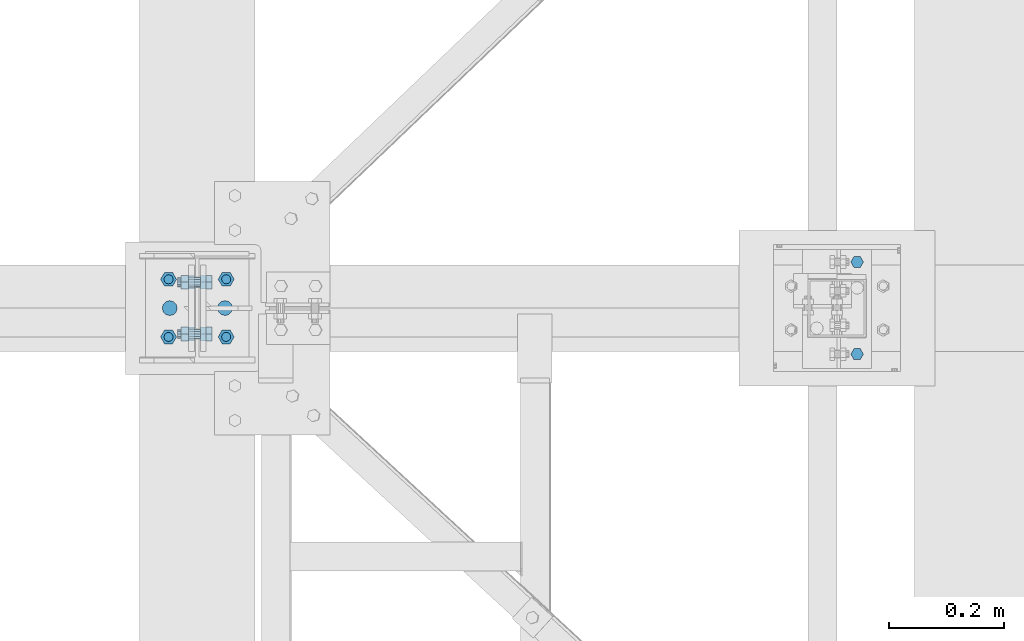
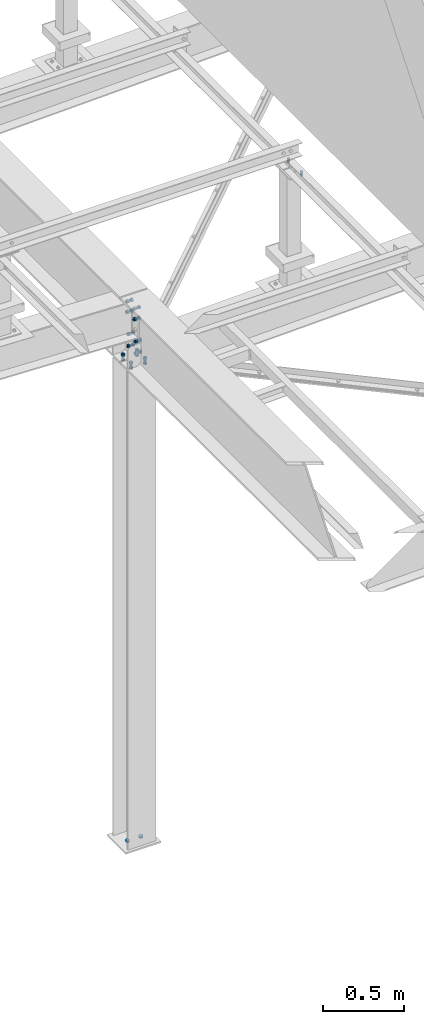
# One storey, part 190 of 3134: 8 mechanical fasteners, 4 elements without a shape of their own.
"""IFC2X3 building model written with IfcOpenShell, lengths in millimetres."""

from ifc_helpers import new_model, si_unit, frame, origin_with_axes, place, context, subcontext, project, spatial, faceted_brep, source, transform, mapped, material, type_object, element, aggregate, save


model = new_model("IFC2X3")

# Units and contexts
model_context = context("Model", 3, precision=1e-05, world=origin_with_axes())
body_context = subcontext(model_context, "Body", "Model", "MODEL_VIEW")
ifc_project = project(units=[si_unit("LENGTHUNIT", "METRE", prefix="MILLI"), si_unit("AREAUNIT", "SQUARE_METRE"), si_unit("VOLUMEUNIT", "CUBIC_METRE"), si_unit("MASSUNIT", "GRAM", prefix="KILO"), si_unit("TIMEUNIT", "SECOND"), si_unit("PLANEANGLEUNIT", "RADIAN"), si_unit("SOLIDANGLEUNIT", "STERADIAN"), si_unit("THERMODYNAMICTEMPERATUREUNIT", "DEGREE_CELSIUS"), si_unit("LUMINOUSINTENSITYUNIT", "LUMEN")], contexts=[model_context])

# Site, building, storey
site_placement = place(None, origin_with_axes())
site = spatial("IfcSite", under=ifc_project, at=site_placement, CompositionType="ELEMENT")
building_placement = place(site_placement, origin_with_axes())
building = spatial("IfcBuilding", under=site, at=building_placement, Name="Undefined", CompositionType="ELEMENT")
storey_placement = place(building_placement, origin_with_axes())
storey = spatial("IfcBuildingStorey", under=building, at=storey_placement, Name="Undefined", CompositionType="ELEMENT", Elevation=0.0)

# Assembly, mechanical fastener
assembly_1_placement = place(storey_placement, origin_with_axes())
assembly_1 = element("IfcElementAssembly", 1, at=assembly_1_placement, inside=storey, Name="HEA200", AssemblyPlace="NOTDEFINED", PredefinedType="RIGID_FRAME")
ifc_material = material(Name="8.8")
mechanical_fastener_type = type_object("IfcMechanicalFastenerType", Name="Bolt assembly")
shared_shape_1 = source(origin_with_axes(), body_context, "Body", "Brep", [
    faceted_brep([(13.0, 0.0, 0.0), (11.2583302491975, 0.0, 6.50000000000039), (6.49999999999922, 0.0, 11.2583302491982), (-1.34723677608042e-12, 0.0, 13.0), (-6.50000000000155, 0.0, 11.2583302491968), (-11.2583302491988, 0.0, 6.49999999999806), (-13.0, 0.0, -2.69447355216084e-12), (-11.2583302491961, 0.0, -6.50000000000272), (-6.4999999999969, 0.0, -11.2583302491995), (4.02727742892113e-12, 0.0, -13.0), (6.50000000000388, 0.0, -11.2583302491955), (11.2583302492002, 0.0, -6.49999999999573), (11.2583302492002, 12.1, -6.49999999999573), (6.50000000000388, 12.1, -11.2583302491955), (4.02727742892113e-12, 12.1, -13.0), (-6.4999999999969, 12.1, -11.2583302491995), (-11.2583302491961, 12.1, -6.50000000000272), (-13.0, 12.1, -2.69447355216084e-12), (-11.2583302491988, 12.1, 6.49999999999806), (-6.50000000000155, 12.1, 11.2583302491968), (-1.34723677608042e-12, 12.1, 13.0), (6.49999999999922, 12.1, 11.2583302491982), (11.2583302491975, 12.1, 6.50000000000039), (13.0, 12.1, 0.0)], [[[0, 1, 2, 3, 4, 5, 6, 7, 8, 9, 10, 11]], [[12, 13, 14, 15, 16, 17, 18, 19, 20, 21, 22, 23]], [[0, 23, 22, 1]], [[1, 22, 21, 2]], [[2, 21, 20, 3]], [[3, 20, 19, 4]], [[4, 19, 18, 5]], [[5, 18, 17, 6]], [[6, 17, 16, 7]], [[7, 16, 15, 8]], [[8, 15, 14, 9]], [[9, 14, 13, 10]], [[10, 13, 12, 11]], [[11, 12, 23, 0]]]),
])
mechanical_fastener_1_placement = place(assembly_1_placement, frame((9295.0, 40250.0, -400.0), z_axis=(1.0, 0.0, 0.0), x_axis=(0.0, 1.0, 0.0)))
mechanical_fastener_1 = element("IfcMechanicalFastener", 2, at=mechanical_fastener_1_placement, type_object=mechanical_fastener_type, material=ifc_material, Name="Bolt assembly", NominalDiameter=24.0, NominalLength=12.0, context=body_context, shape_type="MappedRepresentation", body=[
    mapped(shared_shape_1, transform((0.0, 0.0, -48.0))),
    mapped(shared_shape_1, transform((0.0, 0.0, 48.0))),
])
aggregate(assembly_1, [mechanical_fastener_1])

assembly_2_placement = place(storey_placement, origin_with_axes())
assembly_2 = element("IfcElementAssembly", 3, at=assembly_2_placement, inside=storey, AssemblyPlace="NOTDEFINED", PredefinedType="RIGID_FRAME")
shared_shape_2 = source(origin_with_axes(), body_context, "Body", "Brep", [
    faceted_brep([(10.9696551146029, -14.0, 0.0), (5.48482755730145, -14.0, 9.5), (-5.48482755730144, -14.0, 9.5), (-10.9696551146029, -14.0, 1.34339530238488e-15), (-5.48482755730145, -14.0, -9.5), (5.48482755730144, -14.0, -9.50000000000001), (5.48482755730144, -6.0, -9.50000000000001), (-5.48482755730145, -6.0, -9.5), (-10.9696551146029, -6.0, 1.34339530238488e-15), (-5.48482755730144, -6.0, 9.5), (5.48482755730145, -6.0, 9.5), (10.9696551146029, -6.0, 0.0), (6.0, -6.0, 0.0), (5.19615242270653, -6.0, 3.00000000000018), (2.99999999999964, -6.0, 5.19615242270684), (-6.21801588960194e-13, -6.0, 6.0), (-3.00000000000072, -6.0, 5.19615242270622), (-5.19615242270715, -6.0, 2.9999999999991), (-6.0, -6.0, -1.24360317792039e-12), (-5.19615242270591, -6.0, -3.00000000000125), (-2.99999999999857, -6.0, -5.19615242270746), (1.85874342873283e-12, -6.0, -6.0), (3.00000000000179, -6.0, -5.1961524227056), (5.19615242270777, -6.0, -2.99999999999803), (5.19615242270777, 24.0, -2.99999999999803), (3.00000000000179, 24.0, -5.1961524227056), (1.85874342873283e-12, 24.0, -6.0), (-2.99999999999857, 24.0, -5.19615242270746), (-5.19615242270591, 24.0, -3.00000000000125), (-6.0, 24.0, -1.24360317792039e-12), (-5.19615242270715, 24.0, 2.9999999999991), (-3.00000000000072, 24.0, 5.19615242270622), (-6.21801588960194e-13, 24.0, 6.0), (2.99999999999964, 24.0, 5.19615242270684), (5.19615242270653, 24.0, 3.00000000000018), (6.0, 24.0, 0.0), (10.9696551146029, 6.00000000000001, 0.0), (5.48482755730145, 6.00000000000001, 9.5), (-5.48482755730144, 6.00000000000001, 9.5), (-10.9696551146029, 6.00000000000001, 1.34339530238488e-15), (-5.48482755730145, 6.00000000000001, -9.5), (5.48482755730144, 6.00000000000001, -9.50000000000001), (5.48482755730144, 16.0, -9.50000000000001), (-5.48482755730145, 16.0, -9.5), (-10.9696551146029, 16.0, 1.34339530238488e-15), (-5.48482755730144, 16.0, 9.5), (5.48482755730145, 16.0, 9.5), (10.9696551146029, 16.0, 0.0)], [[[0, 1, 2, 3, 4, 5]], [[6, 7, 8, 9, 10, 11]], [[0, 11, 10, 1]], [[1, 10, 9, 2]], [[2, 9, 8, 3]], [[3, 8, 7, 4]], [[4, 7, 6, 5]], [[5, 6, 11, 0]], [[12, 13, 14, 15, 16, 17, 18, 19, 20, 21, 22, 23]], [[24, 25, 26, 27, 28, 29, 30, 31, 32, 33, 34, 35]], [[12, 35, 34, 13]], [[13, 34, 33, 14]], [[14, 33, 32, 15]], [[15, 32, 31, 16]], [[16, 31, 30, 17]], [[17, 30, 29, 18]], [[18, 29, 28, 19]], [[19, 28, 27, 20]], [[20, 27, 26, 21]], [[21, 26, 25, 22]], [[22, 25, 24, 23]], [[23, 24, 35, 12]], [[36, 37, 38, 39, 40, 41]], [[42, 43, 44, 45, 46, 47]], [[36, 47, 46, 37]], [[37, 46, 45, 38]], [[38, 45, 44, 39]], [[39, 44, 43, 40]], [[40, 43, 42, 41]], [[41, 42, 47, 36]]]),
    faceted_brep([(7.0, -0.1, 0.0), (6.06217782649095, -0.1, 3.50000000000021), (3.49999999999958, -0.1, 6.06217782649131), (-7.25435187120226e-13, -0.1, 7.0), (-3.50000000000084, -0.1, 6.06217782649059), (-6.06217782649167, -0.1, 3.49999999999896), (-7.0, -0.1, -1.45087037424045e-12), (-6.06217782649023, -0.1, -3.50000000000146), (-3.49999999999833, -0.1, -6.06217782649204), (2.1685340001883e-12, -0.1, -7.0), (3.50000000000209, -0.1, -6.06217782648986), (6.0621778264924, -0.1, -3.4999999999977), (6.0621778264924, 6.00000000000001, -3.4999999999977), (3.50000000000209, 6.00000000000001, -6.06217782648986), (2.1685340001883e-12, 6.00000000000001, -7.0), (-3.49999999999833, 6.00000000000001, -6.06217782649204), (-6.06217782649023, 6.00000000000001, -3.50000000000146), (-7.0, 6.00000000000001, -1.45087037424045e-12), (-6.06217782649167, 6.00000000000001, 3.49999999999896), (-3.50000000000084, 6.00000000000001, 6.06217782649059), (-7.25435187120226e-13, 6.00000000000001, 7.0), (3.49999999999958, 6.00000000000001, 6.06217782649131), (6.06217782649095, 6.00000000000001, 3.50000000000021), (7.0, 6.00000000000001, 0.0), (7.0, -5.9, 0.0), (6.06217782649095, -5.9, 3.50000000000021), (3.49999999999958, -5.9, 6.06217782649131), (-7.25435187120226e-13, -5.9, 7.0), (-3.50000000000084, -5.9, 6.06217782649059), (-6.06217782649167, -5.9, 3.49999999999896), (-7.0, -5.9, -1.45087037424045e-12), (-6.06217782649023, -5.9, -3.50000000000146), (-3.49999999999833, -5.9, -6.06217782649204), (2.1685340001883e-12, -5.9, -7.0), (3.50000000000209, -5.9, -6.06217782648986), (6.0621778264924, -5.9, -3.4999999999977), (6.0621778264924, 0.0999999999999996, -3.4999999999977), (3.50000000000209, 0.0999999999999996, -6.06217782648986), (2.1685340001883e-12, 0.0999999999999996, -7.0), (-3.49999999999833, 0.0999999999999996, -6.06217782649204), (-6.06217782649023, 0.0999999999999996, -3.50000000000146), (-7.0, 0.0999999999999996, -1.45087037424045e-12), (-6.06217782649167, 0.0999999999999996, 3.49999999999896), (-3.50000000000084, 0.0999999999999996, 6.06217782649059), (-7.25435187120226e-13, 0.0999999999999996, 7.0), (3.49999999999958, 0.0999999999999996, 6.06217782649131), (6.06217782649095, 0.0999999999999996, 3.50000000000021), (7.0, 0.0999999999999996, 0.0)], [[[0, 1, 2, 3, 4, 5, 6, 7, 8, 9, 10, 11]], [[12, 13, 14, 15, 16, 17, 18, 19, 20, 21, 22, 23]], [[0, 23, 22, 1]], [[1, 22, 21, 2]], [[2, 21, 20, 3]], [[3, 20, 19, 4]], [[4, 19, 18, 5]], [[5, 18, 17, 6]], [[6, 17, 16, 7]], [[7, 16, 15, 8]], [[8, 15, 14, 9]], [[9, 14, 13, 10]], [[10, 13, 12, 11]], [[11, 12, 23, 0]], [[24, 25, 26, 27, 28, 29, 30, 31, 32, 33, 34, 35]], [[36, 37, 38, 39, 40, 41, 42, 43, 44, 45, 46, 47]], [[24, 47, 46, 25]], [[25, 46, 45, 26]], [[26, 45, 44, 27]], [[27, 44, 43, 28]], [[28, 43, 42, 29]], [[29, 42, 41, 30]], [[30, 41, 40, 31]], [[31, 40, 39, 32]], [[32, 39, 38, 33]], [[33, 38, 37, 34]], [[34, 37, 36, 35]], [[35, 36, 47, 24]]]),
])
mechanical_fastener_2_placement = place(assembly_2_placement, frame((10440.0, 40250.0, 4265.0), z_axis=(0.0, -1.0, 0.0), x_axis=(-1.0, 0.0, 0.0)))
mechanical_fastener_2 = element("IfcMechanicalFastener", 4, at=mechanical_fastener_2_placement, type_object=mechanical_fastener_type, material=ifc_material, Name="Bolt assembly", NominalDiameter=12.0, NominalLength=30.0, context=body_context, shape_type="MappedRepresentation", body=[
    mapped(shared_shape_2, transform((0.0, -5.32963895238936e-10, -79.9999999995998))),
    mapped(shared_shape_2, transform((0.0, 5.3114490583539e-10, 79.9999999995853))),
])
aggregate(assembly_2, [mechanical_fastener_2])

assembly_3_placement = place(storey_placement, origin_with_axes())
assembly_3 = element("IfcElementAssembly", 5, at=assembly_3_placement, inside=storey, Name="IPE500", AssemblyPlace="NOTDEFINED", PredefinedType="RIGID_FRAME")
shared_shape_3 = source(origin_with_axes(), body_context, "Body", "Brep", [
    faceted_brep([(13.856406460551, -10.0, 0.0), (6.92820323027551, -10.0, 12.0), (-6.92820323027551, -10.0, 12.0), (-13.856406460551, -10.0, 1.69692038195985e-15), (-6.92820323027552, -10.0, -12.0), (6.9282032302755, -10.0, -12.0), (6.9282032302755, 0.0, -12.0), (-6.92820323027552, 0.0, -12.0), (-13.856406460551, 0.0, 1.69692038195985e-15), (-6.92820323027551, 0.0, 12.0), (6.92820323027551, 0.0, 12.0), (13.856406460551, 0.0, 0.0), (8.0, 0.0, 0.0), (6.92820323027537, 0.0, 4.00000000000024), (3.99999999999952, 0.0, 6.92820323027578), (-8.29068785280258e-13, 0.0, 8.0), (-4.00000000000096, 0.0, 6.92820323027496), (-6.9282032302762, 0.0, 3.99999999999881), (-8.0, 0.0, -1.65813757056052e-12), (-6.92820323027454, 0.0, -4.00000000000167), (-3.99999999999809, 0.0, -6.92820323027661), (2.47832457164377e-12, 0.0, -8.0), (4.00000000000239, 0.0, -6.92820323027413), (6.92820323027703, 0.0, -3.99999999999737), (6.92820323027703, 45.0, -3.99999999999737), (4.00000000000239, 45.0, -6.92820323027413), (2.47832457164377e-12, 45.0, -8.0), (-3.99999999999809, 45.0, -6.92820323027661), (-6.92820323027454, 45.0, -4.00000000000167), (-8.0, 45.0, -1.65813757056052e-12), (-6.9282032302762, 45.0, 3.99999999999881), (-4.00000000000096, 45.0, 6.92820323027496), (-8.29068785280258e-13, 45.0, 8.0), (3.99999999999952, 45.0, 6.92820323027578), (6.92820323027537, 45.0, 4.00000000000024), (8.0, 45.0, 0.0), (13.856406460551, 27.9999995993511, 0.0), (6.92820323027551, 27.9999995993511, 12.0), (-6.92820323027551, 27.9999995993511, 12.0), (-13.856406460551, 27.9999995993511, 1.69692038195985e-15), (-6.92820323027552, 27.9999995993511, -12.0), (6.9282032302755, 27.9999995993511, -12.0), (6.9282032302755, 41.0, -12.0), (-6.92820323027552, 41.0, -12.0), (-13.856406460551, 41.0, 1.69692038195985e-15), (-6.92820323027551, 41.0, 12.0), (6.92820323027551, 41.0, 12.0), (13.856406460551, 41.0, 0.0)], [[[0, 1, 2, 3, 4, 5]], [[6, 7, 8, 9, 10, 11]], [[0, 11, 10, 1]], [[1, 10, 9, 2]], [[2, 9, 8, 3]], [[3, 8, 7, 4]], [[4, 7, 6, 5]], [[5, 6, 11, 0]], [[12, 13, 14, 15, 16, 17, 18, 19, 20, 21, 22, 23]], [[24, 25, 26, 27, 28, 29, 30, 31, 32, 33, 34, 35]], [[12, 35, 34, 13]], [[13, 34, 33, 14]], [[14, 33, 32, 15]], [[15, 32, 31, 16]], [[16, 31, 30, 17]], [[17, 30, 29, 18]], [[18, 29, 28, 19]], [[19, 28, 27, 20]], [[20, 27, 26, 21]], [[21, 26, 25, 22]], [[22, 25, 24, 23]], [[23, 24, 35, 12]], [[36, 37, 38, 39, 40, 41]], [[42, 43, 44, 45, 46, 47]], [[36, 47, 46, 37]], [[37, 46, 45, 38]], [[38, 45, 44, 39]], [[39, 44, 43, 40]], [[40, 43, 42, 41]], [[41, 42, 47, 36]]]),
    faceted_brep([(9.0, 0.100000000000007, 0.0), (7.79422863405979, 0.100000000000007, 4.50000000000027), (4.49999999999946, 0.100000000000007, 7.79422863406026), (-9.3270238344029e-13, 0.100000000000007, 9.0), (-4.50000000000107, 0.100000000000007, 7.79422863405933), (-7.79422863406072, 0.100000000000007, 4.49999999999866), (-9.0, 0.100000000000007, -1.86540476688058e-12), (-7.79422863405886, 0.100000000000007, -4.50000000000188), (-4.49999999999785, 0.100000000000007, -7.79422863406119), (2.78811514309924e-12, 0.100000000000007, -9.0), (4.50000000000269, 0.100000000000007, -7.7942286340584), (7.79422863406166, 0.100000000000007, -4.49999999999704), (7.79422863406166, 12.1, -4.49999999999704), (4.50000000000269, 12.1, -7.7942286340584), (2.78811514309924e-12, 12.1, -9.0), (-4.49999999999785, 12.1, -7.79422863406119), (-7.79422863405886, 12.1, -4.50000000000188), (-9.0, 12.1, -1.86540476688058e-12), (-7.79422863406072, 12.1, 4.49999999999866), (-4.50000000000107, 12.1, 7.79422863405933), (-9.3270238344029e-13, 12.1, 9.0), (4.49999999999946, 12.1, 7.79422863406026), (7.79422863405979, 12.1, 4.50000000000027), (9.0, 12.1, 0.0), (9.0, 11.9, 0.0), (7.79422863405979, 11.9, 4.50000000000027), (4.49999999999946, 11.9, 7.79422863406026), (-9.3270238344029e-13, 11.9, 9.0), (-4.50000000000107, 11.9, 7.79422863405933), (-7.79422863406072, 11.9, 4.49999999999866), (-9.0, 11.9, -1.86540476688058e-12), (-7.79422863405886, 11.9, -4.50000000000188), (-4.49999999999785, 11.9, -7.79422863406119), (2.78811514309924e-12, 11.9, -9.0), (4.50000000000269, 11.9, -7.7942286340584), (7.79422863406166, 11.9, -4.49999999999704), (7.79422863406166, 28.0, -4.49999999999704), (4.50000000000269, 28.0, -7.7942286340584), (2.78811514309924e-12, 28.0, -9.0), (-4.49999999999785, 28.0, -7.79422863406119), (-7.79422863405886, 28.0, -4.50000000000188), (-9.0, 28.0, -1.86540476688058e-12), (-7.79422863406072, 28.0, 4.49999999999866), (-4.50000000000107, 28.0, 7.79422863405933), (-9.3270238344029e-13, 28.0, 9.0), (4.49999999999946, 28.0, 7.79422863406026), (7.79422863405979, 28.0, 4.50000000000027), (9.0, 28.0, 0.0)], [[[0, 1, 2, 3, 4, 5, 6, 7, 8, 9, 10, 11]], [[12, 13, 14, 15, 16, 17, 18, 19, 20, 21, 22, 23]], [[0, 23, 22, 1]], [[1, 22, 21, 2]], [[2, 21, 20, 3]], [[3, 20, 19, 4]], [[4, 19, 18, 5]], [[5, 18, 17, 6]], [[6, 17, 16, 7]], [[7, 16, 15, 8]], [[8, 15, 14, 9]], [[9, 14, 13, 10]], [[10, 13, 12, 11]], [[11, 12, 23, 0]], [[24, 25, 26, 27, 28, 29, 30, 31, 32, 33, 34, 35]], [[36, 37, 38, 39, 40, 41, 42, 43, 44, 45, 46, 47]], [[24, 47, 46, 25]], [[25, 46, 45, 26]], [[26, 45, 44, 27]], [[27, 44, 43, 28]], [[28, 43, 42, 29]], [[29, 42, 41, 30]], [[30, 41, 40, 31]], [[31, 40, 39, 32]], [[32, 39, 38, 33]], [[33, 38, 37, 34]], [[34, 37, 36, 35]], [[35, 36, 47, 24]]]),
])
mechanical_fastener_3_placement = place(assembly_3_placement, frame((9345.0, 40200.0, 3202.67), z_axis=(0.0, 1.0, 0.0), x_axis=(-1.0, 0.0, 0.0)))
mechanical_fastener_3 = element("IfcMechanicalFastener", 6, at=mechanical_fastener_3_placement, type_object=mechanical_fastener_type, material=ifc_material, Name="Bolt assembly", NominalDiameter=16.0, NominalLength=45.0, context=body_context, shape_type="MappedRepresentation", body=[
    mapped(shared_shape_3, transform((0.0, 0.0, 0.0))),
    mapped(shared_shape_3, transform((100.0, 0.0, 0.0))),
])

assembly_4_placement = place(storey_placement, origin_with_axes())
assembly_4 = element("IfcElementAssembly", 7, at=assembly_4_placement, inside=storey, Name="IPE500", AssemblyPlace="NOTDEFINED", PredefinedType="RIGID_FRAME")
mechanical_fastener_4_placement = place(assembly_4_placement, frame((9345.0, 40300.0, 3202.67), z_axis=(0.0, 1.0, 0.0), x_axis=(-1.0, 0.0, 0.0)))
mechanical_fastener_4 = element("IfcMechanicalFastener", 8, at=mechanical_fastener_4_placement, type_object=mechanical_fastener_type, material=ifc_material, Name="Bolt assembly", NominalDiameter=16.0, NominalLength=45.0, context=body_context, shape_type="MappedRepresentation", body=[
    mapped(shared_shape_3, transform((0.0, 0.0, 0.0))),
    mapped(shared_shape_3, transform((100.0, 0.0, 0.0))),
])

# Mechanical fastener
shared_shape_4 = source(origin_with_axes(), body_context, "Body", "Brep", [
    faceted_brep([(13.856406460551, 0.0, 0.0), (6.92820323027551, 0.0, 12.0), (-6.92820323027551, 0.0, 12.0), (-13.856406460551, 0.0, 1.69692038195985e-15), (-6.92820323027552, 0.0, -12.0), (6.9282032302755, 0.0, -12.0), (6.9282032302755, 9.99999995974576, -12.0), (-6.92820323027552, 9.99999995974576, -12.0), (-13.856406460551, 9.99999995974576, 1.69692038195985e-15), (-6.92820323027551, 9.99999995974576, 12.0), (6.92820323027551, 9.99999995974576, 12.0), (13.856406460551, 9.99999995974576, 0.0), (8.0, 9.99999995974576, 0.0), (6.92820323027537, 9.99999995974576, 4.00000000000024), (3.99999999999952, 9.99999995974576, 6.92820323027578), (-8.29068785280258e-13, 9.99999995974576, 8.0), (-4.00000000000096, 9.99999995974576, 6.92820323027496), (-6.9282032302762, 9.99999995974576, 3.99999999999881), (-8.0, 9.99999995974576, -1.65813757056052e-12), (-6.92820323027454, 9.99999995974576, -4.00000000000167), (-3.99999999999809, 9.99999995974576, -6.92820323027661), (2.47832457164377e-12, 9.99999995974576, -8.0), (4.00000000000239, 9.99999995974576, -6.92820323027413), (6.92820323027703, 9.99999995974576, -3.99999999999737), (6.92820323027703, 49.9999999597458, -3.99999999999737), (4.00000000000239, 49.9999999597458, -6.92820323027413), (2.47832457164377e-12, 49.9999999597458, -8.0), (-3.99999999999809, 49.9999999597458, -6.92820323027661), (-6.92820323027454, 49.9999999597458, -4.00000000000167), (-8.0, 49.9999999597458, -1.65813757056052e-12), (-6.9282032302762, 49.9999999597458, 3.99999999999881), (-4.00000000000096, 49.9999999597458, 6.92820323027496), (-8.29068785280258e-13, 49.9999999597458, 8.0), (3.99999999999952, 49.9999999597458, 6.92820323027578), (6.92820323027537, 49.9999999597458, 4.00000000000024), (8.0, 49.9999999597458, 0.0), (13.856406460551, 30.1999997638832, 0.0), (6.92820323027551, 30.1999997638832, 12.0), (-6.92820323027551, 30.1999997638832, 12.0), (-13.856406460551, 30.1999997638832, 1.69692038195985e-15), (-6.92820323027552, 30.1999997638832, -12.0), (6.9282032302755, 30.1999997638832, -12.0), (6.9282032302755, 43.1999997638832, -12.0), (-6.92820323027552, 43.1999997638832, -12.0), (-13.856406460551, 43.1999997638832, 1.69692038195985e-15), (-6.92820323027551, 43.1999997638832, 12.0), (6.92820323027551, 43.1999997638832, 12.0), (13.856406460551, 43.1999997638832, 0.0)], [[[0, 1, 2, 3, 4, 5]], [[6, 7, 8, 9, 10, 11]], [[0, 11, 10, 1]], [[1, 10, 9, 2]], [[2, 9, 8, 3]], [[3, 8, 7, 4]], [[4, 7, 6, 5]], [[5, 6, 11, 0]], [[12, 13, 14, 15, 16, 17, 18, 19, 20, 21, 22, 23]], [[24, 25, 26, 27, 28, 29, 30, 31, 32, 33, 34, 35]], [[12, 35, 34, 13]], [[13, 34, 33, 14]], [[14, 33, 32, 15]], [[15, 32, 31, 16]], [[16, 31, 30, 17]], [[17, 30, 29, 18]], [[18, 29, 28, 19]], [[19, 28, 27, 20]], [[20, 27, 26, 21]], [[21, 26, 25, 22]], [[22, 25, 24, 23]], [[23, 24, 35, 12]], [[36, 37, 38, 39, 40, 41]], [[42, 43, 44, 45, 46, 47]], [[36, 47, 46, 37]], [[37, 46, 45, 38]], [[38, 45, 44, 39]], [[39, 44, 43, 40]], [[40, 43, 42, 41]], [[41, 42, 47, 36]]]),
    faceted_brep([(9.0, 20.0999997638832, 0.0), (7.79422863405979, 20.0999997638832, 4.50000000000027), (4.49999999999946, 20.0999997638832, 7.79422863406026), (-9.3270238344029e-13, 20.0999997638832, 9.0), (-4.50000000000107, 20.0999997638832, 7.79422863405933), (-7.79422863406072, 20.0999997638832, 4.49999999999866), (-9.0, 20.0999997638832, -1.86540476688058e-12), (-7.79422863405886, 20.0999997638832, -4.50000000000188), (-4.49999999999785, 20.0999997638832, -7.79422863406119), (2.78811514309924e-12, 20.0999997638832, -9.0), (4.50000000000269, 20.0999997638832, -7.7942286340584), (7.79422863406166, 20.0999997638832, -4.49999999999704), (7.79422863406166, 30.1999997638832, -4.49999999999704), (4.50000000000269, 30.1999997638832, -7.7942286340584), (2.78811514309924e-12, 30.1999997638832, -9.0), (-4.49999999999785, 30.1999997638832, -7.79422863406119), (-7.79422863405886, 30.1999997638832, -4.50000000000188), (-9.0, 30.1999997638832, -1.86540476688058e-12), (-7.79422863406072, 30.1999997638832, 4.49999999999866), (-4.50000000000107, 30.1999997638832, 7.79422863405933), (-9.3270238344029e-13, 30.1999997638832, 9.0), (4.49999999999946, 30.1999997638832, 7.79422863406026), (7.79422863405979, 30.1999997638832, 4.50000000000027), (9.0, 30.1999997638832, 0.0), (9.0, 10.1000023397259, 0.0), (7.79422863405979, 10.1000023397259, 4.50000000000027), (4.49999999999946, 10.1000023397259, 7.79422863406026), (-9.3270238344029e-13, 10.1000023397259, 9.0), (-4.50000000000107, 10.1000023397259, 7.79422863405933), (-7.79422863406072, 10.1000023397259, 4.49999999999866), (-9.0, 10.1000023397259, -1.86540476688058e-12), (-7.79422863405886, 10.1000023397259, -4.50000000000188), (-4.49999999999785, 10.1000023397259, -7.79422863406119), (2.78811514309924e-12, 10.1000023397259, -9.0), (4.50000000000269, 10.1000023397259, -7.7942286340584), (7.79422863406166, 10.1000023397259, -4.49999999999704), (7.79422863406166, 20.2999997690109, -4.49999999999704), (4.50000000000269, 20.2999997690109, -7.7942286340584), (2.78811514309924e-12, 20.2999997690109, -9.0), (-4.49999999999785, 20.2999997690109, -7.79422863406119), (-7.79422863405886, 20.2999997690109, -4.50000000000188), (-9.0, 20.2999997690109, -1.86540476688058e-12), (-7.79422863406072, 20.2999997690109, 4.49999999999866), (-4.50000000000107, 20.2999997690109, 7.79422863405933), (-9.3270238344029e-13, 20.2999997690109, 9.0), (4.49999999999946, 20.2999997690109, 7.79422863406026), (7.79422863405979, 20.2999997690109, 4.50000000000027), (9.0, 20.2999997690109, 0.0)], [[[0, 1, 2, 3, 4, 5, 6, 7, 8, 9, 10, 11]], [[12, 13, 14, 15, 16, 17, 18, 19, 20, 21, 22, 23]], [[0, 23, 22, 1]], [[1, 22, 21, 2]], [[2, 21, 20, 3]], [[3, 20, 19, 4]], [[4, 19, 18, 5]], [[5, 18, 17, 6]], [[6, 17, 16, 7]], [[7, 16, 15, 8]], [[8, 15, 14, 9]], [[9, 14, 13, 10]], [[10, 13, 12, 11]], [[11, 12, 23, 0]], [[24, 25, 26, 27, 28, 29, 30, 31, 32, 33, 34, 35]], [[36, 37, 38, 39, 40, 41, 42, 43, 44, 45, 46, 47]], [[24, 47, 46, 25]], [[25, 46, 45, 26]], [[26, 45, 44, 27]], [[27, 44, 43, 28]], [[28, 43, 42, 29]], [[29, 42, 41, 30]], [[30, 41, 40, 31]], [[31, 40, 39, 32]], [[32, 39, 38, 33]], [[33, 38, 37, 34]], [[34, 37, 36, 35]], [[35, 36, 47, 24]]]),
])
mechanical_fastener_5_placement = place(assembly_3_placement, frame((9310.09999986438, 40205.0, 3631.67000001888), z_axis=(0.0, 1.0, 0.0), x_axis=(0.0, 0.0, -1.0)))
mechanical_fastener_5 = element("IfcMechanicalFastener", 9, at=mechanical_fastener_5_placement, type_object=mechanical_fastener_type, material=ifc_material, Name="Bolt assembly", NominalDiameter=16.0, NominalLength=40.0, context=body_context, shape_type="MappedRepresentation", body=[
    mapped(shared_shape_4, transform((0.0, 0.0, 0.0))),
    mapped(shared_shape_4, transform((80.0, 0.0, 0.0))),
])

mechanical_fastener_6_placement = place(assembly_4_placement, frame((9310.09999986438, 40295.0, 3631.67000001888), z_axis=(0.0, 1.0, 0.0), x_axis=(0.0, 0.0, -1.0)))
mechanical_fastener_6 = element("IfcMechanicalFastener", 10, at=mechanical_fastener_6_placement, type_object=mechanical_fastener_type, material=ifc_material, Name="Bolt assembly", NominalDiameter=16.0, NominalLength=40.0, context=body_context, shape_type="MappedRepresentation", body=[
    mapped(shared_shape_4, transform((0.0, 0.0, 0.0))),
    mapped(shared_shape_4, transform((80.0, 0.0, 0.0))),
])

shared_shape_5 = source(origin_with_axes(), body_context, "Body", "Brep", [
    faceted_brep([(13.856406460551, -10.0, 0.0), (6.92820323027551, -10.0, 12.0), (-6.92820323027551, -10.0, 12.0), (-13.856406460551, -10.0, 1.69692038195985e-15), (-6.92820323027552, -10.0, -12.0), (6.9282032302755, -10.0, -12.0), (6.9282032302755, 0.0, -12.0), (-6.92820323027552, 0.0, -12.0), (-13.856406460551, 0.0, 1.69692038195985e-15), (-6.92820323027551, 0.0, 12.0), (6.92820323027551, 0.0, 12.0), (13.856406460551, 0.0, 0.0), (8.0, 0.0, 0.0), (6.92820323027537, 0.0, 4.00000000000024), (3.99999999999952, 0.0, 6.92820323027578), (-8.29068785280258e-13, 0.0, 8.0), (-4.00000000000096, 0.0, 6.92820323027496), (-6.9282032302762, 0.0, 3.99999999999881), (-8.0, 0.0, -1.65813757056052e-12), (-6.92820323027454, 0.0, -4.00000000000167), (-3.99999999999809, 0.0, -6.92820323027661), (2.47832457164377e-12, 0.0, -8.0), (4.00000000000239, 0.0, -6.92820323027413), (6.92820323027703, 0.0, -3.99999999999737), (6.92820323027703, 40.0, -3.99999999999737), (4.00000000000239, 40.0, -6.92820323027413), (2.47832457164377e-12, 40.0, -8.0), (-3.99999999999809, 40.0, -6.92820323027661), (-6.92820323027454, 40.0, -4.00000000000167), (-8.0, 40.0, -1.65813757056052e-12), (-6.9282032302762, 40.0, 3.99999999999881), (-4.00000000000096, 40.0, 6.92820323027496), (-8.29068785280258e-13, 40.0, 8.0), (3.99999999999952, 40.0, 6.92820323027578), (6.92820323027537, 40.0, 4.00000000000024), (8.0, 40.0, 0.0), (13.856406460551, 20.1999997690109, 0.0), (6.92820323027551, 20.1999997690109, 12.0), (-6.92820323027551, 20.1999997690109, 12.0), (-13.856406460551, 20.1999997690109, 1.69692038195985e-15), (-6.92820323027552, 20.1999997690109, -12.0), (6.9282032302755, 20.1999997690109, -12.0), (6.9282032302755, 33.1999997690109, -12.0), (-6.92820323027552, 33.1999997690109, -12.0), (-13.856406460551, 33.1999997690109, 1.69692038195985e-15), (-6.92820323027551, 33.1999997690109, 12.0), (6.92820323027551, 33.1999997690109, 12.0), (13.856406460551, 33.1999997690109, 0.0)], [[[0, 1, 2, 3, 4, 5]], [[6, 7, 8, 9, 10, 11]], [[0, 11, 10, 1]], [[1, 10, 9, 2]], [[2, 9, 8, 3]], [[3, 8, 7, 4]], [[4, 7, 6, 5]], [[5, 6, 11, 0]], [[12, 13, 14, 15, 16, 17, 18, 19, 20, 21, 22, 23]], [[24, 25, 26, 27, 28, 29, 30, 31, 32, 33, 34, 35]], [[12, 35, 34, 13]], [[13, 34, 33, 14]], [[14, 33, 32, 15]], [[15, 32, 31, 16]], [[16, 31, 30, 17]], [[17, 30, 29, 18]], [[18, 29, 28, 19]], [[19, 28, 27, 20]], [[20, 27, 26, 21]], [[21, 26, 25, 22]], [[22, 25, 24, 23]], [[23, 24, 35, 12]], [[36, 37, 38, 39, 40, 41]], [[42, 43, 44, 45, 46, 47]], [[36, 47, 46, 37]], [[37, 46, 45, 38]], [[38, 45, 44, 39]], [[39, 44, 43, 40]], [[40, 43, 42, 41]], [[41, 42, 47, 36]]]),
    faceted_brep([(9.0, 0.100000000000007, 0.0), (7.79422863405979, 0.100000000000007, 4.50000000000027), (4.49999999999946, 0.100000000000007, 7.79422863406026), (-9.3270238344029e-13, 0.100000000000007, 9.0), (-4.50000000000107, 0.100000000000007, 7.79422863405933), (-7.79422863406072, 0.100000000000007, 4.49999999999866), (-9.0, 0.100000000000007, -1.86540476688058e-12), (-7.79422863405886, 0.100000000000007, -4.50000000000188), (-4.49999999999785, 0.100000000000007, -7.79422863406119), (2.78811514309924e-12, 0.100000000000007, -9.0), (4.50000000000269, 0.100000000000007, -7.7942286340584), (7.79422863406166, 0.100000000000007, -4.49999999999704), (7.79422863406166, 10.1000023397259, -4.49999999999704), (4.50000000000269, 10.1000023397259, -7.7942286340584), (2.78811514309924e-12, 10.1000023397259, -9.0), (-4.49999999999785, 10.1000023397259, -7.79422863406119), (-7.79422863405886, 10.1000023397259, -4.50000000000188), (-9.0, 10.1000023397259, -1.86540476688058e-12), (-7.79422863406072, 10.1000023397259, 4.49999999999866), (-4.50000000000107, 10.1000023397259, 7.79422863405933), (-9.3270238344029e-13, 10.1000023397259, 9.0), (4.49999999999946, 10.1000023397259, 7.79422863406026), (7.79422863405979, 10.1000023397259, 4.50000000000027), (9.0, 10.1000023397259, 0.0), (9.0, 9.89999999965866, 0.0), (7.79422863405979, 9.89999999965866, 4.50000000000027), (4.49999999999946, 9.89999999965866, 7.79422863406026), (-9.3270238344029e-13, 9.89999999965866, 9.0), (-4.50000000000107, 9.89999999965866, 7.79422863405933), (-7.79422863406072, 9.89999999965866, 4.49999999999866), (-9.0, 9.89999999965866, -1.86540476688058e-12), (-7.79422863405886, 9.89999999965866, -4.50000000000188), (-4.49999999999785, 9.89999999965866, -7.79422863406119), (2.78811514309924e-12, 9.89999999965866, -9.0), (4.50000000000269, 9.89999999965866, -7.7942286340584), (7.79422863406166, 9.89999999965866, -4.49999999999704), (7.79422863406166, 20.1999997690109, -4.49999999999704), (4.50000000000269, 20.1999997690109, -7.7942286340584), (2.78811514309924e-12, 20.1999997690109, -9.0), (-4.49999999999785, 20.1999997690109, -7.79422863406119), (-7.79422863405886, 20.1999997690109, -4.50000000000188), (-9.0, 20.1999997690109, -1.86540476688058e-12), (-7.79422863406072, 20.1999997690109, 4.49999999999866), (-4.50000000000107, 20.1999997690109, 7.79422863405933), (-9.3270238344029e-13, 20.1999997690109, 9.0), (4.49999999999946, 20.1999997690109, 7.79422863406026), (7.79422863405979, 20.1999997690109, 4.50000000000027), (9.0, 20.1999997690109, 0.0)], [[[0, 1, 2, 3, 4, 5, 6, 7, 8, 9, 10, 11]], [[12, 13, 14, 15, 16, 17, 18, 19, 20, 21, 22, 23]], [[0, 23, 22, 1]], [[1, 22, 21, 2]], [[2, 21, 20, 3]], [[3, 20, 19, 4]], [[4, 19, 18, 5]], [[5, 18, 17, 6]], [[6, 17, 16, 7]], [[7, 16, 15, 8]], [[8, 15, 14, 9]], [[9, 14, 13, 10]], [[10, 13, 12, 11]], [[11, 12, 23, 0]], [[24, 25, 26, 27, 28, 29, 30, 31, 32, 33, 34, 35]], [[36, 37, 38, 39, 40, 41, 42, 43, 44, 45, 46, 47]], [[24, 47, 46, 25]], [[25, 46, 45, 26]], [[26, 45, 44, 27]], [[27, 44, 43, 28]], [[28, 43, 42, 29]], [[29, 42, 41, 30]], [[30, 41, 40, 31]], [[31, 40, 39, 32]], [[32, 39, 38, 33]], [[33, 38, 37, 34]], [[34, 37, 36, 35]], [[35, 36, 47, 24]]]),
])
mechanical_fastener_7_placement = place(assembly_3_placement, frame((9310.09999986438, 40205.0, 3381.67000001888), z_axis=(0.0, 1.0, 0.0), x_axis=(0.0, 0.0, -1.0)))
mechanical_fastener_7 = element("IfcMechanicalFastener", 11, at=mechanical_fastener_7_placement, type_object=mechanical_fastener_type, material=ifc_material, Name="Bolt assembly", NominalDiameter=16.0, NominalLength=40.0, context=body_context, shape_type="MappedRepresentation", body=[
    mapped(shared_shape_5, transform((0.0, 0.0, 0.0))),
    mapped(shared_shape_5, transform((90.0, 0.0, 0.0))),
])

aggregate(assembly_3, [mechanical_fastener_3, mechanical_fastener_5, mechanical_fastener_7])

mechanical_fastener_8_placement = place(assembly_4_placement, frame((9310.09999986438, 40295.0, 3381.67000001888), z_axis=(0.0, 1.0, 0.0), x_axis=(0.0, 0.0, -1.0)))
mechanical_fastener_8 = element("IfcMechanicalFastener", 12, at=mechanical_fastener_8_placement, type_object=mechanical_fastener_type, material=ifc_material, Name="Bolt assembly", NominalDiameter=16.0, NominalLength=40.0, context=body_context, shape_type="MappedRepresentation", body=[
    mapped(shared_shape_5, transform((0.0, 0.0, 0.0))),
    mapped(shared_shape_5, transform((90.0, 0.0, 0.0))),
])

aggregate(assembly_4, [mechanical_fastener_4, mechanical_fastener_6, mechanical_fastener_8])

save(model, "model.ifc")
